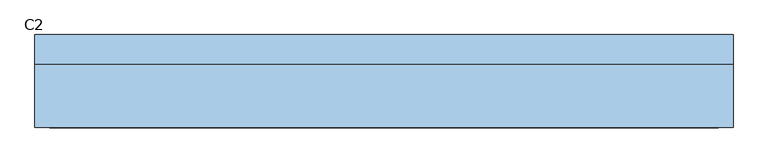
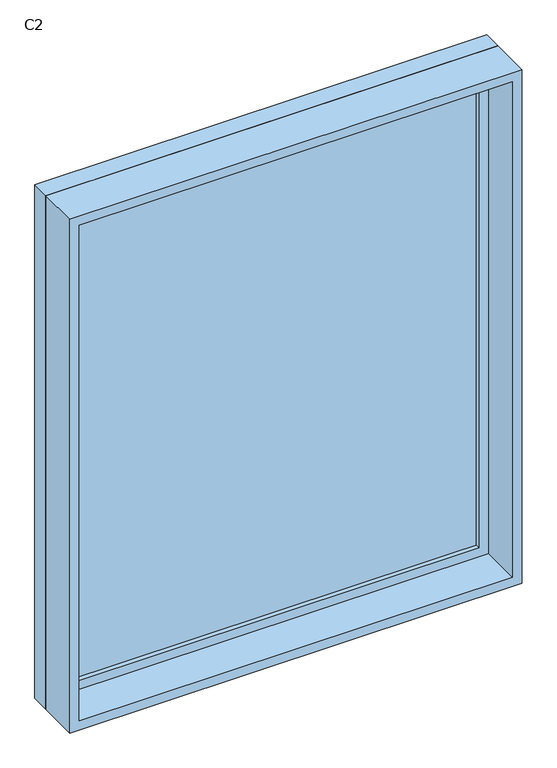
"""IFC4 building model written with IfcOpenShell, lengths in millimetres: window geometry, 固定 : C2."""

from ifc_helpers import new_model, si_unit, frame, origin, place, context, project, spatial, polyline, outline, extrude, source, transform, mapped, element, save


def c2_16925ed6(model_context):
    return source(origin(), model_context, "Body", "SweptSolid", [
        extrude(outline(polyline([(-687.0, 78.0), (687.0, 78.0), (687.0, 66.0), (-687.0, 66.0), (-687.0, 78.0)])), frame((0.0, 0.0, 963.0), z_axis=(0.0, 0.0, 1.0), x_axis=(1.0, 0.0, 0.0)), (0.0, 0.0, 1.0), 1674.0),
        extrude(outline(polyline([(2681.0, -731.0), (919.0, -731.0), (919.0, 731.0), (2681.0, 731.0), (2681.0, -731.0)]), holes=[polyline([(2637.0, -687.0), (2637.0, 687.0), (963.0, 687.0), (963.0, -687.0), (2637.0, -687.0)])]), frame((0.0, 50.0, 0.0), z_axis=(0.0, 1.0, 0.0), x_axis=(0.0, 0.0, 1.0)), (0.0, 0.0, 1.0), 44.0),
        extrude(outline(polyline([(2700.0, -750.0), (900.0, -750.0), (900.0, 750.0), (2700.0, 750.0), (2700.0, -750.0)]), holes=[polyline([(2681.0, -731.0), (2681.0, 731.0), (919.0, 731.0), (919.0, -731.0), (2681.0, -731.0)])]), frame((0.0, 50.0, 0.0), z_axis=(0.0, 1.0, 0.0), x_axis=(0.0, 0.0, 1.0)), (0.0, 0.0, 1.0), 63.0),
        extrude(outline(polyline([(2700.0, -750.0), (900.0, -750.0), (900.0, 750.0), (2700.0, 750.0), (2700.0, -750.0)]), holes=[polyline([(2668.0, -718.0), (2668.0, 718.0), (932.0, 718.0), (932.0, -718.0), (2668.0, -718.0)])]), frame((0.0, -87.0, 0.0), z_axis=(0.0, 1.0, 0.0), x_axis=(0.0, 0.0, 1.0)), (0.0, 0.0, 1.0), 137.0),
    ])


if __name__ == "__main__":
    model = new_model("IFC4")
    model_context = context("Model", 3, world=origin())
    ifc_project = project(units=[si_unit("LENGTHUNIT", "METRE", prefix="MILLI")], contexts=[model_context])
    site = spatial("IfcSite", under=ifc_project)
    building = spatial("IfcBuilding", under=site)
    placement = place(None, origin())
    c2_shape = c2_16925ed6(model_context)
    element("IfcWindow", 1, ObjectType="固定 : C2", at=placement, inside=building, context=model_context, shape_type="MappedRepresentation", body=[
        mapped(c2_shape, transform((0.0, 0.0, 0.0), x_axis=(1.0, 0.0, 0.0), y_axis=(0.0, 1.0, 0.0), z_axis=(0.0, 0.0, 1.0))),
    ])
    save(model, "model.ifc")
